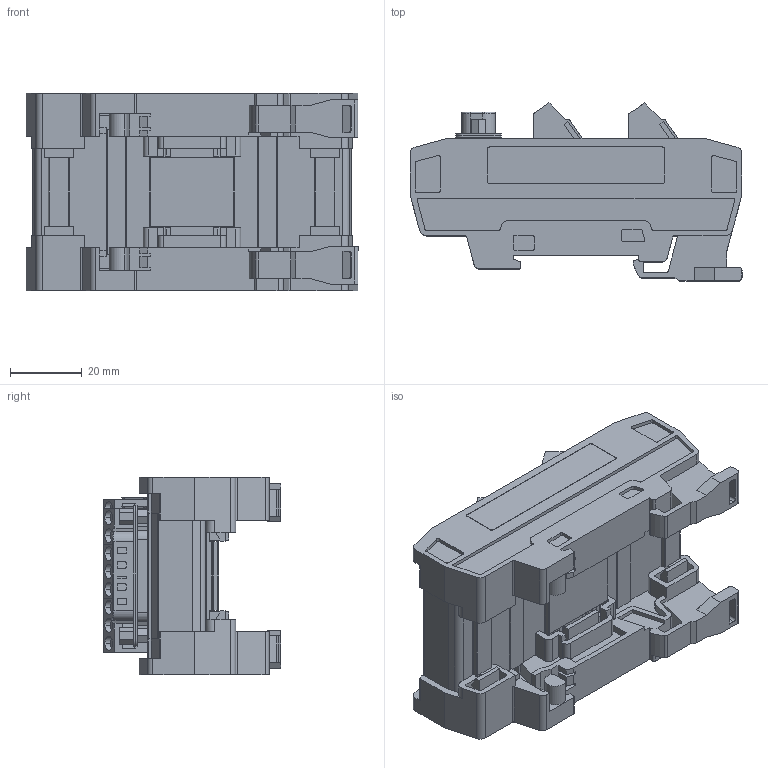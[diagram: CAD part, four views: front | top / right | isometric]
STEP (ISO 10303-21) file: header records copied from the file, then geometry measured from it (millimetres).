
FILE_DESCRIPTION (( 'STEP AP214' ), '1' );
FILE_NAME ('brkawd15m-s-dc_rev_a.step', '2026-06-25T18:59:14', ( '' ), ( '' ), 'SwSTEP 2.0', 'SolidWorks 2018', '' );
FILE_SCHEMA (( 'AUTOMOTIVE_DESIGN' ));
Length unit declared in the file: inch
Products named in the file (8): din_rail_extrusion; brkawd15m-s-dc_rev_a; 2_position_terminal; 3_position_terminal; right_endcap; Male Straight 15 Pin; left_endcap; brkawd15m_pcb
Assembly tree (11 placements, depth 2):
  brkawd15m-s-dc_rev_a
    brkawd15m_pcb
    Male Straight 15 Pin
    2_position_terminal  x2
    3_position_terminal  x4
    din_rail_extrusion
    left_endcap
    right_endcap
Bounding box: 92.3 x 49.48 x 55 mm (x, y, z)
Volume: 78614.2 mm3; surface area: 65964.6 mm2
Topology: 46 solids, 46 shells, 4296 faces, 11529 edges, 7605 vertices
Faces by surface type: plane 2858, cylinder 833, bspline 515, cone 60, sphere 30
Entity records: 182114 total; most frequent: CARTESIAN_POINT 48066, ORIENTED_EDGE 19694, DIRECTION 16683, EDGE_CURVE 9847, LINE 7087, VECTOR 7087, VERTEX_POINT 6535, AXIS2_PLACEMENT_3D 4798
